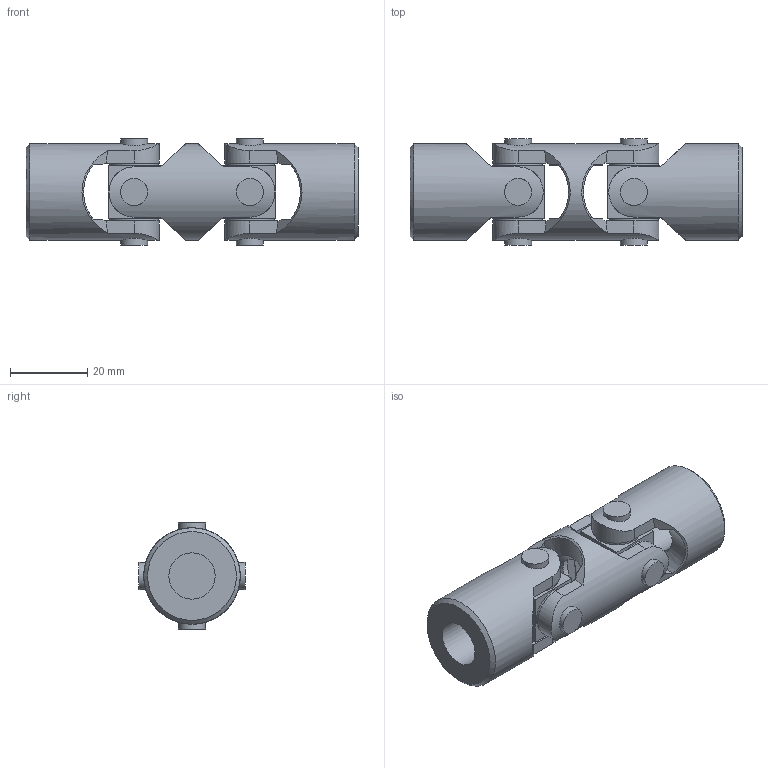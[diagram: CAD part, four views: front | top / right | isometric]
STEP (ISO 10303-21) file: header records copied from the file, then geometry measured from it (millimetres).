
FILE_DESCRIPTION(/* description */ (''),/* implementation_level */ '2;1');
FILE_NAME(/* name */ '\\SRV2016\Societa\Stefano\Disegni 3D\0Catalogo 3D\14Doppi XD\Ø25_04XD_SX0D1200.stp',/* time_stamp */ '2023-05-15T08:41:51+02:00',/* author */ ('acquisti'),/* organization */ (''),/* preprocessor_version */ 'ST-DEVELOPER v15.6',/* originating_system */ 'Autodesk Inventor 2015',/* authorisation */ '');
FILE_SCHEMA (('AUTOMOTIVE_DESIGN { 1 0 10303 214 3 1 1 }'));
Length unit declared in the file: millimetre
Products named in the file (4): 04X MOD; 04X SFE; 04X MOS; Ø25_04XD_SX0D1200
Assembly tree (5 placements, depth 2):
  Ø25_04XD_SX0D1200
    04X MOD
    04X SFE  x2
    04X MOS  x2
Bounding box: 86 x 27.5 x 27.5 mm (x, y, z)
Volume: 28382.5 mm3; surface area: 13706.3 mm2
Topology: 5 solids, 5 shells, 121 faces, 307 edges, 208 vertices
Faces by surface type: plane 62, cylinder 33, cone 22, torus 4
Full cylindrical faces by diameter (mm): 7 x8, 12 x2, 12.5 x8, 13 x4, 25 x3
Entity records: 2962 total; most frequent: CARTESIAN_POINT 1106, ORIENTED_EDGE 362, DIRECTION 346, EDGE_CURVE 181, AXIS2_PLACEMENT_3D 149, VERTEX_POINT 135, EDGE_LOOP 116, FACE_OUTER_BOUND 82
